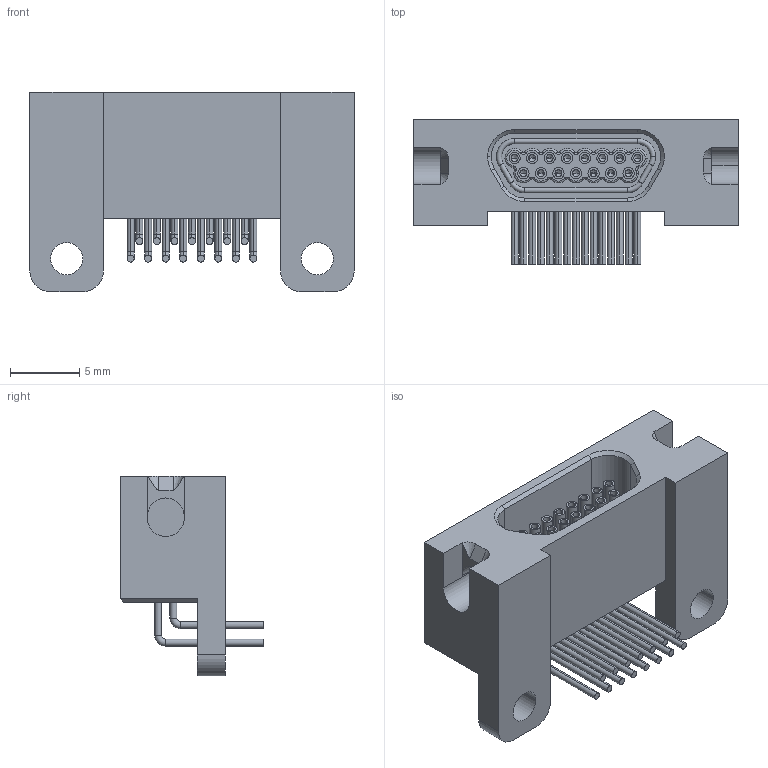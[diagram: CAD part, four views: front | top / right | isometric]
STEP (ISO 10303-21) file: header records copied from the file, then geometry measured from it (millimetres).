
FILE_DESCRIPTION (( 'STEP AP214' ), '1' );
FILE_NAME ('A99450-015 REV C.STEP', '2012-07-11T20:48:13', ( '' ), ( '' ), 'SwSTEP 2.0', 'SolidWorks 2012', '' );
FILE_SCHEMA (( 'AUTOMOTIVE_DESIGN' ));
Length unit declared in the file: inch
Products named in the file (1): A99450-015 REV B
Bounding box: 23.5 x 10.43 x 14.48 mm (x, y, z)
Volume: 1344.7 mm3; surface area: 2089.8 mm2
Topology: 1 solids, 34 shells, 785 faces, 1837 edges, 1144 vertices
Faces by surface type: cylinder 317, plane 277, torus 98, bspline 54, cone 39
Entity records: 25192 total; most frequent: CARTESIAN_POINT 6963, DIRECTION 3960, ORIENTED_EDGE 3602, EDGE_CURVE 1801, AXIS2_PLACEMENT_3D 1541, VERTEX_POINT 1144, EDGE_LOOP 911, LINE 878
